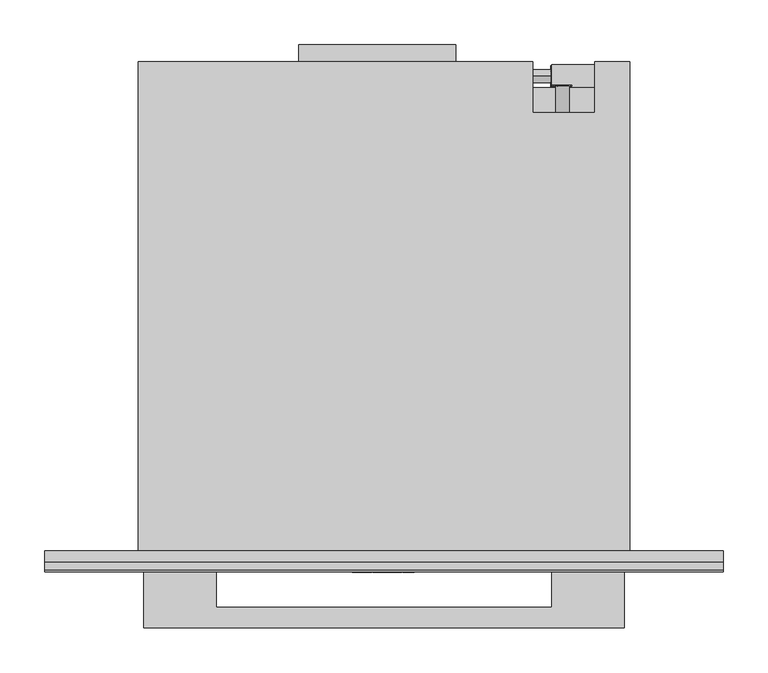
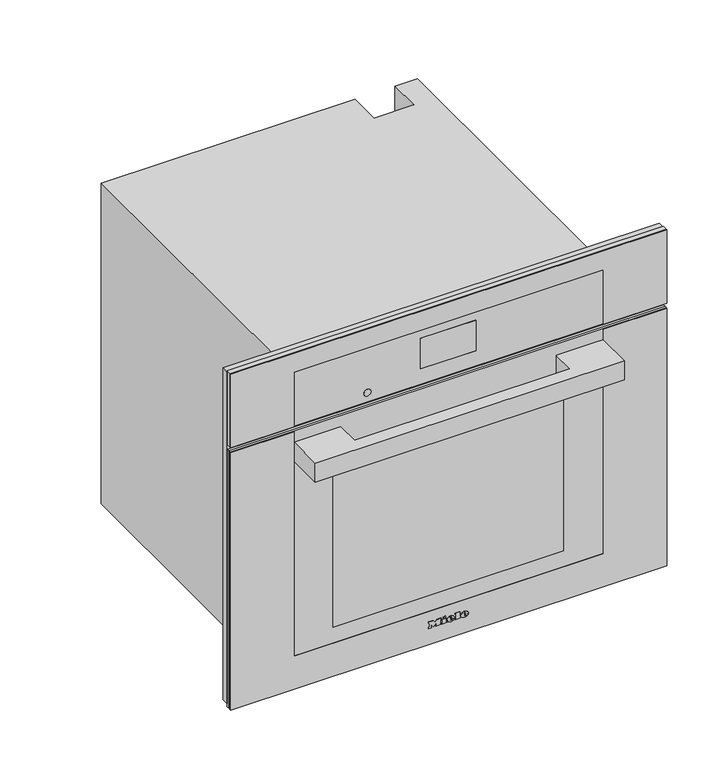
"""IFC4 building model written with IfcOpenShell, lengths in millimetres: proxy geometry, 11875850_USA_DGC7585_EDST-CLST : 23758543_USA_11875850_DGC7585_EDST-CLST."""

import ifcopenshell
import ifcopenshell.guid

model = None  # the IFC model being written
_history = None  # IfcOwnerHistory: only IFC2X3 demands one
_inside = {}  # id of a spatial element -> (the spatial element, [elements in it])
_under = {}  # id of a project, library or spatial element -> (it, [spatial elements below it])
_declared = {}  # id of a project -> (the project, [libraries it declares])
_typed = {}  # id of a type object -> (the type object, [elements of that type])
_made_of = {}  # id of a material, layer set ... -> (it, [elements and type objects made of it])


def new_model(schema):
    """Start an empty IFC model of exactly this schema.

    Asked for "IFC4X3", IfcOpenShell would pick the latest addendum, in which some entities
    have other attributes; the version numbers below select the first issue.
    IFC2X3 requires an IfcOwnerHistory on every rooted entity: one is made here for all.
    """
    global model, _history
    if schema == "IFC4X3":
        model = ifcopenshell.file(schema_version=(4, 3, 0, 0))
    else:
        model = ifcopenshell.file(schema=schema)
    _inside.clear()
    _under.clear()
    _declared.clear()
    _typed.clear()
    _made_of.clear()
    _history = None
    if model.schema == "IFC2X3":
        org = make("IfcOrganization", Name="unknown")
        user = make(
            "IfcPersonAndOrganization",
            ThePerson=make("IfcPerson", FamilyName="unknown"),
            TheOrganization=org,
        )
        app = make(
            "IfcApplication",
            ApplicationDeveloper=org,
            Version="unknown",
            ApplicationFullName="unknown",
            ApplicationIdentifier="unknown",
        )
        _history = make(
            "IfcOwnerHistory",
            OwningUser=user,
            OwningApplication=app,
            ChangeAction="ADDED",
            CreationDate=0,
        )
    return model


def make(cls, **values):
    """One entity of the class cls with the attributes given. An attribute that is None is left unset."""
    return model.create_entity(
        cls, **{name: value for name, value in values.items() if value is not None}
    )


def rooted(cls, **values):
    """An entity with a GlobalId (a new one), such as an element, a storey or a relation."""
    return make(cls, GlobalId=ifcopenshell.guid.new(), OwnerHistory=_history, **values)


def si_unit(unit_type, name, prefix=None):
    """IfcSIUnit, for example si_unit("LENGTHUNIT", "METRE", prefix="MILLI")."""
    return make("IfcSIUnit", UnitType=unit_type, Prefix=prefix, Name=name)


def assignment(units):
    """IfcUnitAssignment: the units of a project."""
    return None if units is None else make("IfcUnitAssignment", Units=units)


def point(xyz):
    """IfcCartesianPoint."""
    return None if xyz is None else make("IfcCartesianPoint", Coordinates=xyz)


def direction(xyz):
    """IfcDirection."""
    return None if xyz is None else make("IfcDirection", DirectionRatios=xyz)


def frame(location, z_axis=None, x_axis=None):
    """IfcAxis2Placement3D, a coordinate frame: its origin and axes. An axis left out is left unset."""
    return make(
        "IfcAxis2Placement3D",
        Location=point(location),
        Axis=direction(z_axis),
        RefDirection=direction(x_axis),
    )


def frame_2d(location, x_axis=None):
    """IfcAxis2Placement2D, a coordinate frame in the plane: its origin and x axis."""
    return make(
        "IfcAxis2Placement2D", Location=point(location), RefDirection=direction(x_axis)
    )


def origin():
    """The frame at (0, 0, 0) with its axes left unset."""
    return frame((0.0, 0.0, 0.0))


def place(relative_to, where):
    """IfcLocalPlacement: puts the frame where relative to a parent placement (None: the world)."""
    return make(
        "IfcLocalPlacement", PlacementRelTo=relative_to, RelativePlacement=where
    )


def context(
    kind, dimensions, precision=None, world=None, true_north=None, identifier=None
):
    """IfcGeometricRepresentationContext, for example the 3D "Model" context."""
    return make(
        "IfcGeometricRepresentationContext",
        ContextIdentifier=identifier,
        ContextType=kind,
        CoordinateSpaceDimension=dimensions,
        Precision=precision,
        WorldCoordinateSystem=world,
        TrueNorth=true_north,
    )


def project(units=None, contexts=None):
    """IfcProject with its units and contexts."""
    return rooted(
        "IfcProject",
        Name="project",
        RepresentationContexts=contexts,
        UnitsInContext=assignment(units),
    )


def spatial(cls, under=None, at=None, **own):
    """A site, building, storey or space (cls), placed at a placement, below another one or the project."""
    s = rooted(cls, ObjectPlacement=at, **own)
    if under is not None:
        _under.setdefault(under.id(), (under, []))[1].append(s)
    return s


def polyline(points):
    """IfcPolyline through the points."""
    return make("IfcPolyline", Points=[point(p) for p in points])


def circle_curve(where, radius):
    """IfcCircle in the frame where."""
    return make("IfcCircle", Position=where, Radius=radius)


def ellipse_curve(where, semi_axis1, semi_axis2):
    """IfcEllipse in the frame where."""
    return make(
        "IfcEllipse", Position=where, SemiAxis1=semi_axis1, SemiAxis2=semi_axis2
    )


def trimmed(basis, trim1, trim2, sense, master):
    """IfcTrimmedCurve: the piece of a basis curve between two trims."""
    return make(
        "IfcTrimmedCurve",
        BasisCurve=basis,
        Trim1=trim1,
        Trim2=trim2,
        SenseAgreement=sense,
        MasterRepresentation=master,
    )


def segment(curve, same_sense, transition):
    """IfcCompositeCurveSegment."""
    return make(
        "IfcCompositeCurveSegment",
        Transition=transition,
        SameSense=same_sense,
        ParentCurve=curve,
    )


def composite_curve(segments, self_intersect=None):
    """IfcCompositeCurve: segments joined end to end."""
    return make("IfcCompositeCurve", Segments=segments, SelfIntersect=self_intersect)


def outline(outer, holes=None, kind="AREA"):
    """IfcArbitraryClosedProfileDef: a profile drawn as a closed curve; with holes, ...WithVoids."""
    if holes is None:
        return make("IfcArbitraryClosedProfileDef", ProfileType=kind, OuterCurve=outer)
    return make(
        "IfcArbitraryProfileDefWithVoids",
        ProfileType=kind,
        OuterCurve=outer,
        InnerCurves=holes,
    )


def extrude(swept, where, along, depth):
    """IfcExtrudedAreaSolid: the profile swept, set in the frame where, extruded along a direction by depth."""
    return make(
        "IfcExtrudedAreaSolid",
        SweptArea=swept,
        Position=where,
        ExtrudedDirection=direction(along),
        Depth=depth,
    )


def faces_of(points, faces, orient=None, outer=None):
    """IfcFace entities. A face is a list of loops; a loop is a list of indices into points, from 0.

    orient and outer hold one flag for each loop. By default every Orientation is true, the
    first loop of a face is its IfcFaceOuterBound and the others are IfcFaceBound.
    """
    made = []
    for i, loops in enumerate(faces):
        bounds = []
        for j, loop in enumerate(loops):
            is_outer = j == 0 if outer is None else outer[i][j]
            bounds.append(
                make(
                    "IfcFaceOuterBound" if is_outer else "IfcFaceBound",
                    Bound=make("IfcPolyLoop", Polygon=[points[k] for k in loop]),
                    Orientation=True if orient is None else orient[i][j],
                )
            )
        made.append(make("IfcFace", Bounds=bounds))
    return made


def faceted_brep(points, faces, orient=None, outer=None, voids=None):
    """IfcFacetedBrep: a solid bounded by flat faces; with voids (closed shells), ...WithVoids."""
    shared = [point(p) for p in points]
    hull = make("IfcClosedShell", CfsFaces=faces_of(shared, faces, orient, outer))
    if voids is None:
        return make("IfcFacetedBrep", Outer=hull)
    return make(
        "IfcFacetedBrepWithVoids",
        Outer=hull,
        Voids=[
            make(cls, CfsFaces=faces_of(shared, fs, o, b)) for cls, fs, o, b in voids
        ],
    )


def shape(context_of_items, identifier, shape_type, items):
    """IfcShapeRepresentation: the items that make up one representation, for example the "Body"."""
    return make(
        "IfcShapeRepresentation",
        ContextOfItems=context_of_items,
        RepresentationIdentifier=identifier,
        RepresentationType=shape_type,
        Items=items,
    )


def source(mapping_origin, context_of_items, identifier, shape_type, items):
    """IfcRepresentationMap: a shape defined once, which mapped items show again and again."""
    return make(
        "IfcRepresentationMap",
        MappingOrigin=mapping_origin,
        MappedRepresentation=shape(context_of_items, identifier, shape_type, items),
    )


def transform(
    local_origin,
    x_axis=None,
    y_axis=None,
    z_axis=None,
    scale=None,
    scale2=None,
    scale3=None,
    uniform=True,
):
    """IfcCartesianTransformationOperator3D, or its non-uniform kind. x_axis, y_axis, z_axis: its Axis1, 2, 3."""
    if uniform:
        return make(
            "IfcCartesianTransformationOperator3D",
            Axis1=direction(x_axis),
            Axis2=direction(y_axis),
            LocalOrigin=point(local_origin),
            Scale=scale,
            Axis3=direction(z_axis),
        )
    return make(
        "IfcCartesianTransformationOperator3DnonUniform",
        Axis1=direction(x_axis),
        Axis2=direction(y_axis),
        LocalOrigin=point(local_origin),
        Scale=scale,
        Axis3=direction(z_axis),
        Scale2=scale2,
        Scale3=scale3,
    )


def mapped(mapping_source, mapping_target):
    """IfcMappedItem: shows the shape of a source again, moved by a transform."""
    return make(
        "IfcMappedItem", MappingSource=mapping_source, MappingTarget=mapping_target
    )


def made_of(thing, what):
    """Note that an element or type object is made of a material, layer set ...; save() writes the relation."""
    if what is not None:
        _made_of.setdefault(what.id(), (what, []))[1].append(thing)
    return thing


def element(
    cls,
    number,
    at=None,
    inside=None,
    cuts=None,
    type_object=None,
    material=None,
    context=None,
    identifier="Body",
    shape_type=None,
    held_by="IfcProductDefinitionShape",
    body=None,
    shapes=None,
    **own,
):
    """One element of the class cls, such as IfcWall. Its Tag is "e" and its number.

    at: its placement. inside: the storey or other place that contains it. cuts: it is an
    opening in that element (IfcRelVoidsElement). A single representation is given by context,
    identifier, shape_type and body (its items); several are given by shapes. held_by: the class
    of the entity that holds the representations. save() writes the other relations.
    """
    e = rooted(cls, Tag="e%d" % number, ObjectPlacement=at, **own)
    if body is not None:
        shapes = [shape(context, identifier, shape_type, body)]
    if shapes is not None:
        e.Representation = make(held_by, Representations=shapes)
    if inside is not None:
        _inside.setdefault(inside.id(), (inside, []))[1].append(e)
    if cuts is not None:
        rooted(
            "IfcRelVoidsElement", RelatingBuildingElement=cuts, RelatedOpeningElement=e
        )
    if type_object is not None:
        _typed.setdefault(type_object.id(), (type_object, []))[1].append(e)
    return made_of(e, material)


def aggregate(whole, parts):
    """IfcRelAggregates: a whole, such as a stair, and the parts it consists of."""
    return rooted("IfcRelAggregates", RelatingObject=whole, RelatedObjects=parts)


def save(model, path):
    """Write the relations noted so far, then the file.

    IfcRelAggregates (storeys below a building ...), IfcRelContainedInSpatialStructure (elements
    in a storey), IfcRelDefinesByType, IfcRelAssociatesMaterial and IfcRelDeclares: one each for
    every whole, place, type object, material and project.
    """
    for whole, parts in _under.values():
        aggregate(whole, parts)
    for where, things in _inside.values():
        rooted(
            "IfcRelContainedInSpatialStructure",
            RelatedElements=things,
            RelatingStructure=where,
        )
    for kind, things in _typed.values():
        rooted("IfcRelDefinesByType", RelatedObjects=things, RelatingType=kind)
    for what, things in _made_of.values():
        rooted("IfcRelAssociatesMaterial", RelatedObjects=things, RelatingMaterial=what)
    for by, libraries in _declared.values():
        rooted("IfcRelDeclares", RelatingContext=by, RelatedDefinitions=libraries)
    model.write(path)


def plane_surface(at):
    """IfcPlane: the flat surface through the origin of the frame at, square to its z axis."""
    return make("IfcPlane", Position=at)


def cylinder_surface(at, radius):
    """IfcCylindricalSurface: all points at the distance radius from the z axis of the frame at."""
    return make("IfcCylindricalSurface", Position=at, Radius=radius)


def revolved_surface(curve, axis_point, axis_direction):
    """IfcSurfaceOfRevolution: the curve turned about the line through axis_point along axis_direction."""
    return make(
        "IfcSurfaceOfRevolution",
        SweptCurve=make("IfcArbitraryOpenProfileDef", ProfileType="CURVE", Curve=curve),
        AxisPosition=make("IfcAxis1Placement", Location=point(axis_point), Axis=direction(axis_direction)),
    )


def extruded_surface(curve, direction_of_extrusion, depth):
    """IfcSurfaceOfLinearExtrusion: the curve pushed along a direction by depth."""
    return make(
        "IfcSurfaceOfLinearExtrusion",
        SweptCurve=make("IfcArbitraryOpenProfileDef", ProfileType="CURVE", Curve=curve),
        ExtrudedDirection=direction(direction_of_extrusion),
        Depth=depth,
    )


def advanced_brep(points, edges, surfaces, faces):
    """IfcAdvancedBrep: a solid bounded by faces that lie on surfaces and meet in shared edges.

    An edge is (start, end): straight between two places in points (the first is 0);
    or (start, end, curve); or (start, end, curve, False) where it runs against its curve.
    A face is (place in surfaces, loops), or (place, loops, False) where it looks against
    its surface's normal. A loop lists edges by number (the first is 1), with a minus sign
    where the edge is run from its end to its start. The first loop is the outer one.
    """
    corners = [point(p) for p in points]
    vertices = [make("IfcVertexPoint", VertexGeometry=c) for c in corners]
    made = []
    for start, end, *more in edges:
        made.append(
            make(
                "IfcEdgeCurve",
                EdgeStart=vertices[start],
                EdgeEnd=vertices[end],
                EdgeGeometry=more[0] if more else make("IfcPolyline", Points=[corners[start], corners[end]]),
                SameSense=more[1] if len(more) > 1 else True,
            )
        )
    hull = []
    for where, loops, *sense in faces:
        bounds = []
        for j, loop in enumerate(loops):
            ring = [make("IfcOrientedEdge", EdgeElement=made[abs(k) - 1], Orientation=k > 0) for k in loop]
            bounds.append(
                make(
                    "IfcFaceOuterBound" if j == 0 else "IfcFaceBound",
                    Bound=make("IfcEdgeLoop", EdgeList=ring),
                    Orientation=True,
                )
            )
        hull.append(make("IfcAdvancedFace", Bounds=bounds, FaceSurface=surfaces[where], SameSense=sense[0] if sense else True))
    return make("IfcAdvancedBrep", Outer=make("IfcClosedShell", CfsFaces=hull))


def specialty_equipment_f7db8bf3(model_context):
    return source(origin(), model_context, "Body", "SolidModel", [
        faceted_brep([(378.5, -13.0, 617.0), (-378.5, -13.0, 617.0), (-378.5, -13.0, 9.0), (-272.5, -13.0, 9.0), (-272.5, -13.0, 485.0), (272.5, -13.0, 485.0), (272.5, -13.0, 9.0), (378.5, -13.0, 9.0), (378.5, 0.0, 617.0), (378.5, 0.0, 9.0), (-378.5, 0.0, 9.0), (-378.5, 0.0, 617.0), (231.0, 0.0, 61.0), (231.0, 0.0, 411.0), (-231.0, 0.0, 411.0), (-231.0, 0.0, 61.0), (272.5, -5.0, 9.0), (-272.5, -5.0, 9.0), (-272.5, -5.0, 485.0), (272.5, -5.0, 485.0), (231.0, -5.0, 411.0), (231.0, -5.0, 61.0), (-231.0, -5.0, 61.0), (-231.0, -5.0, 411.0)], [[[0, 1, 2, 3, 4, 5, 6, 7]], [[8, 9, 10, 11], [12, 13, 14, 15]], [[1, 0, 8, 11]], [[2, 1, 11, 10]], [[10, 9, 7, 6, 16, 17, 3, 2]], [[0, 7, 9, 8]], [[18, 19, 5, 4]], [[18, 4, 3, 17]], [[5, 19, 16, 6]], [[19, 18, 17, 16], [20, 21, 22, 23]], [[20, 13, 12, 21]], [[21, 12, 15, 22]], [[22, 15, 14, 23]], [[13, 20, 23, 14]]]),
        extrude(outline(polyline([(-95.0, 565.0), (80.0, 565.0), (80.0, 546.0), (-95.0, 546.0), (-95.0, 565.0)])), frame((0.0, 0.0, 311.0), z_axis=(0.0, 0.0, 1.0), x_axis=(1.0, 0.0, 0.0)), (0.0, 0.0, 1.0), 1.0),
        extrude(outline(polyline([(218.8383288, 522.0), (225.1236409, 522.0), (225.1236409, 511.9492425), (223.8571792, 511.9492425), (223.8571792, 520.7409796), (218.8383288, 520.7409796), (218.8383288, 522.0)])), frame((0.0, 0.0, 272.0), z_axis=(0.0, 0.0, 1.0), x_axis=(1.0, 0.0, 0.0)), (0.0, 0.0, 1.0), 1.0),
        extrude(outline(polyline([(227.0, 522.0), (234.3797826, 522.0), (234.3797826, 511.9503529), (227.15422, 511.9503529), (227.15422, 513.220938), (233.1355215, 513.220938), (233.1355215, 516.1975645), (227.4863097, 516.1975645), (227.4863097, 517.449242), (233.1355215, 517.449242), (233.1355215, 520.7448633), (227.0, 520.7448633), (227.0, 522.0)])), frame((0.0, 0.0, 272.0), z_axis=(0.0, 0.0, 1.0), x_axis=(1.0, 0.0, 0.0)), (0.0, 0.0, 1.0), 1.0),
        extrude(outline(polyline([(519.6429442, 19.9943805), (518.3113439, 19.9943805), (522.3179353, 30.0448542), (523.3959224, 30.0448542), (527.4062166, 20.0), (526.0536081, 20.0), (524.9175759, 23.121223), (520.7810217, 23.121223), (519.6429442, 19.9943805)]), holes=[polyline([(521.2587176, 24.4336815), (524.43988, 24.4336815), (522.8492988, 28.8037675), (521.2587176, 24.4336815)])]), frame((186.0, 0.0, 0.0), z_axis=(1.0, 0.0, 0.0), x_axis=(0.0, 1.0, 0.0)), (0.0, 0.0, 1.0), 1.0),
        extrude(outline(polyline([(530.5321321, 20.0), (527.8018067, 30.0490432), (529.0968223, 30.0490432), (531.1602937, 21.4201336), (533.686646, 30.0556718), (535.5455392, 30.0556718), (538.1024658, 21.4662572), (540.1658975, 30.0556718), (541.4634812, 30.0556718), (538.7128319, 20.0), (537.3799359, 20.0), (534.6350025, 28.8403806), (532.048723, 20.0), (530.5321321, 20.0)])), frame((186.0, 0.0, 0.0), z_axis=(1.0, 0.0, 0.0), x_axis=(0.0, 1.0, 0.0)), (0.0, 0.0, 1.0), 1.0),
        extrude(outline(composite_curve([segment(trimmed(circle_curve(frame_2d((227.0, 517.0)), 7.5), [point((219.5, 517.0))], [point((234.5, 517.0))], False, "CARTESIAN"), True, "CONTINUOUS"), segment(trimmed(circle_curve(frame_2d((227.0, 517.0)), 7.5), [point((234.5, 517.0))], [point((219.5, 517.0))], False, "CARTESIAN"), True, "CONTINUOUS")], self_intersect=False)), frame((0.0, 0.0, 273.0), z_axis=(0.0, 0.0, 1.0), x_axis=(1.0, 0.0, 0.0)), (0.0, 0.0, 1.0), 30.0),
        extrude(outline(polyline([(266.0, 517.0), (187.0, 517.0), (187.0, 543.0), (266.0, 543.0), (266.0, 517.0)])), frame((0.0, 0.0, 303.0), z_axis=(0.0, 0.0, 1.0), x_axis=(1.0, 0.0, 0.0)), (0.0, 0.0, 1.0), 111.0),
        extrude(outline(polyline([(523.0, 196.9217896), (523.0, 198.4267862), (533.0435673, 201.1942402), (533.0435673, 199.9014806), (524.4295103, 197.7797951), (533.0470645, 195.3087512), (533.0470645, 193.4373937), (524.4121052, 190.9191482), (533.0472266, 188.8443938), (533.0472266, 187.5376524), (523.0, 190.2769667), (523.0, 191.6257455), (531.8347238, 194.3884733), (523.0, 196.9217896)])), frame((0.0, 519.0, 0.0), z_axis=(0.0, 1.0, 0.0), x_axis=(0.0, 0.0, 1.0)), (0.0, 0.0, 1.0), 1.0),
        extrude(outline(polyline([(533.0468463, 209.521488), (533.0468463, 208.2566067), (528.129594, 208.2566067), (533.0474898, 203.1074328), (533.0474898, 201.3597489), (528.9313111, 205.6695027), (523.0, 201.1858157), (523.0, 202.7358731), (528.0700777, 206.5685235), (526.4282746, 208.2823622), (523.0, 208.2823622), (523.0, 209.521488), (533.0468463, 209.521488)])), frame((0.0, 519.0, 0.0), z_axis=(0.0, 1.0, 0.0), x_axis=(0.0, 0.0, 1.0)), (0.0, 0.0, 1.0), 1.0),
        extrude(outline(composite_curve([segment(trimmed(circle_curve(frame_2d((528.0, 199.0)), 7.5), [point((528.0, 206.5))], [point((528.0, 191.5))], False, "CARTESIAN"), True, "CONTINUOUS"), segment(trimmed(circle_curve(frame_2d((528.0, 199.0)), 7.5), [point((528.0, 191.5))], [point((528.0, 206.5))], False, "CARTESIAN"), True, "CONTINUOUS")], self_intersect=False)), frame((0.0, 489.0, 0.0), z_axis=(0.0, 1.0, 0.0), x_axis=(0.0, 0.0, 1.0)), (0.0, 0.0, 1.0), 30.0),
        extrude(outline(composite_curve([segment(trimmed(circle_curve(frame_2d((530.0, 25.0)), 7.5), [point((530.0, 17.5))], [point((530.0, 32.5))], False, "CARTESIAN"), True, "CONTINUOUS"), segment(trimmed(circle_curve(frame_2d((530.0, 25.0)), 7.5), [point((530.0, 32.5))], [point((530.0, 17.5))], False, "CARTESIAN"), True, "CONTINUOUS")], self_intersect=False)), frame((166.0, 0.0, 0.0), z_axis=(1.0, 0.0, 0.0), x_axis=(0.0, 1.0, 0.0)), (0.0, 0.0, 1.0), 20.0),
        faceted_brep([(-274.0, 546.0, 0.0), (-274.0, 546.0, 588.0), (166.0, 546.0, 588.0), (166.0, 546.0, 0.0), (235.0, 546.0, 588.0), (274.0, 546.0, 588.0), (274.0, 546.0, 478.0), (235.0, 546.0, 478.0), (274.0, 0.0, 588.0), (-274.0, 0.0, 588.0), (-274.0, 0.0, 0.0), (274.0, 0.0, 0.0), (231.0, 0.0, 411.0), (231.0, 0.0, 61.0), (-231.0, 0.0, 61.0), (-231.0, 0.0, 411.0), (235.0, 489.0, 588.0), (166.0, 489.0, 588.0), (166.0, 517.0, 0.0), (274.0, 517.0, 0.0), (274.0, 517.0, 478.0), (231.0, 411.0, 411.0), (-231.0, 411.0, 411.0), (-231.0, 411.0, 61.0), (231.0, 411.0, 61.0), (235.0, 489.0, 477.0), (166.0, 489.0, 477.0), (166.0, 517.0, 477.0), (235.0, 517.0, 477.0), (235.0, 517.0, 478.0)], [[[0, 1, 2, 3]], [[4, 5, 6, 7]], [[8, 9, 10, 11], [12, 13, 14, 15]], [[9, 8, 5, 4, 16, 17, 2, 1]], [[1, 0, 10, 9]], [[11, 10, 0, 3, 18, 19]], [[8, 11, 19, 20, 6, 5]], [[21, 22, 23, 24]], [[21, 24, 13, 12]], [[24, 23, 14, 13]], [[23, 22, 15, 14]], [[22, 21, 12, 15]], [[16, 25, 26, 17]], [[17, 26, 27, 18, 3, 2]], [[26, 25, 28, 27]], [[25, 16, 4, 7, 29, 28]], [[29, 20, 19, 18, 27, 28]], [[20, 29, 7, 6]]]),
        advanced_brep(
        [(26.2998, -24.3, 36.7018), (26.2998, -24.3, 37.8532), (33.9264, -24.3, 37.8532), (20.6568, -24.3, 37.8532), (23.7918, -24.3, 34.0), (33.7326, -24.3, 36.7018), (30.2898, -24.3, 36.7018), (27.5766, -24.3, 35.425), (26.2998, -24.3, 39.3124), (26.2998, -24.3, 40.555), (28.2492, -24.3, 40.555), (28.2492, -24.3, 39.3124), (26.2998, -23.3, 36.7018), (27.5766, -23.3, 35.425), (30.2898, -23.3, 36.7018), (33.7326, -23.3, 36.7018), (23.7918, -23.3, 34.0), (20.6568, -23.3, 37.8532), (33.9264, -23.3, 37.8532), (26.2998, -23.3, 37.8532), (26.2998, -23.3, 39.3124), (28.2492, -23.3, 39.3124), (28.2492, -23.3, 40.555), (26.2998, -23.3, 40.555)],
        [
            (0, 1),
            (1, 2),
            (2, 3, ellipse_curve(frame((27.2916, -24.3, 37.8532), z_axis=(0.0, -1.0, 0.0), x_axis=(-1.0, 0.0, 0.0)), 6.6348, 5.4834)),
            (3, 4, circle_curve(frame((25.0686622, -24.3, 38.2408), z_axis=(0.0, -1.0, 0.0), x_axis=(0.0, 0.0, -1.0)), 4.4288556)),
            (4, 5, circle_curve(frame((27.1587808, -24.3, 41.2504), z_axis=(0.0, -1.0, 0.0), x_axis=(0.0, 0.0, -1.0)), 7.9940516)),
            (5, 6),
            (6, 7, circle_curve(frame((28.1338588, -24.3, 37.762), z_axis=(0.0, 1.0, 0.0), x_axis=(0.0, 0.0, -1.0)), 2.4025208)),
            (7, 0, circle_curve(frame((27.5766, -24.3, 36.7018), z_axis=(0.0, 1.0, 0.0), x_axis=(0.0, 0.0, -1.0)), 1.2768)),
            (8, 9),
            (9, 10, circle_curve(frame((27.2745, -24.3, 40.555), z_axis=(0.0, 1.0, 0.0), x_axis=(0.0, 0.0, -1.0)), 0.9747)),
            (10, 11),
            (11, 8),
            (12, 13, circle_curve(frame((27.5766, -23.3, 36.7018), z_axis=(0.0, -1.0, 0.0), x_axis=(0.0, 0.0, -1.0)), 1.2768)),
            (13, 14, circle_curve(frame((28.1338588, -23.3, 37.762), z_axis=(0.0, -1.0, 0.0), x_axis=(0.0, 0.0, -1.0)), 2.4025208)),
            (14, 15),
            (15, 16, circle_curve(frame((27.1587808, -23.3, 41.2504), z_axis=(0.0, 1.0, 0.0), x_axis=(0.0, 0.0, -1.0)), 7.9940516)),
            (16, 17, circle_curve(frame((25.0686622, -23.3, 38.2408), z_axis=(0.0, 1.0, 0.0), x_axis=(0.0, 0.0, -1.0)), 4.4288556)),
            (17, 18, ellipse_curve(frame((27.2916, -23.3, 37.8532), z_axis=(0.0, 1.0, 0.0), x_axis=(-1.0, 0.0, 0.0)), 6.6348, 5.4834)),
            (18, 19),
            (19, 12),
            (20, 21),
            (21, 22),
            (22, 23, circle_curve(frame((27.2745, -23.3, 40.555), z_axis=(0.0, -1.0, 0.0), x_axis=(0.0, 0.0, -1.0)), 0.9747)),
            (23, 20),
            (0, 12),
            (19, 1),
            (18, 2),
            (5, 15),
            (14, 6),
            (17, 3),
            (13, 7),
            (16, 4),
            (8, 20),
            (23, 9),
            (22, 10),
            (21, 11),
        ],
        [
            plane_surface(frame((26.2998, -24.3, 37.8532), z_axis=(0.0, -1.0, 0.0), x_axis=(0.0, 0.0, 1.0))),
            plane_surface(frame((26.2998, -23.3, 37.8532), z_axis=(0.0, 1.0, 0.0), x_axis=(0.0, 0.0, -1.0))),
            plane_surface(frame((26.2998, -24.3, 36.7018), z_axis=(1.0, 0.0, 0.0), x_axis=(0.0, 1.0, 0.0))),
            plane_surface(frame((26.2998, -24.3, 37.8532), z_axis=(0.0, 0.0, -1.0), x_axis=(0.0, 1.0, 0.0))),
            plane_surface(frame((33.7326, -24.3, 36.7018), z_axis=(0.0, 0.0, 1.0), x_axis=(0.0, 1.0, 0.0))),
            extruded_surface(trimmed(ellipse_curve(frame((27.2916, -22.3, 37.8532), z_axis=(0.0, -1.0, 0.0), x_axis=(-1.0, 0.0, 0.0)), 6.6348, 5.4834), [point((33.9264, -22.3, 37.8532))], [point((20.6568, -22.3, 37.8532))], True, "CARTESIAN"), (0.0, -1.0, 0.0), 1.0),
            revolved_surface(polyline([(28.1338588, -23.3, 35.3594792), (28.1338588, -24.3, 35.3594792)]), (28.1338588, -23.3, 37.762), (0.0, 1.0, 0.0)),
            revolved_surface(polyline([(27.5766, -23.3, 35.425), (27.5766, -24.3, 35.425)]), (27.5766, -23.3, 36.7018), (0.0, 1.0, 0.0)),
            cylinder_surface(frame((25.0686622, -23.3, 38.2408), z_axis=(0.0, -1.0, 0.0), x_axis=(0.0, 0.0, -1.0)), 4.4288556),
            cylinder_surface(frame((27.1587808, -23.3, 41.2504), z_axis=(0.0, -1.0, 0.0), x_axis=(0.0, 0.0, -1.0)), 7.9940516),
            plane_surface(frame((26.2998, -24.3, 39.3124), z_axis=(1.0, 0.0, 0.0), x_axis=(0.0, 1.0, 0.0))),
            revolved_surface(polyline([(27.2745, -23.3, 39.5803), (27.2745, -24.3, 39.5803)]), (27.2745, -23.3, 40.555), (0.0, 1.0, 0.0)),
            plane_surface(frame((28.2492, -24.3, 40.555), z_axis=(-1.0, 0.0, 0.0), x_axis=(0.0, 1.0, 0.0))),
            plane_surface(frame((28.2492, -24.3, 39.3124), z_axis=(0.0, 0.0, 1.0), x_axis=(0.0, 1.0, 0.0))),
        ],
        [
            (0, [[1, 2, 3, 4, 5, 6, 7, 8], [9, 10, 11, 12]]),
            (1, [[13, 14, 15, 16, 17, 18, 19, 20], [21, 22, 23, 24]]),
            (2, [[-1, 25, -20, 26]]),
            (3, [[-2, -26, -19, 27]]),
            (4, [[-6, 28, -15, 29]]),
            (5, [[-3, -27, -18, 30]]),
            (6, [[-7, -29, -14, 31]]),
            (7, [[-8, -31, -13, -25]]),
            (8, [[-4, -30, -17, 32]]),
            (9, [[-5, -32, -16, -28]]),
            (10, [[-9, 33, -24, 34]]),
            (11, [[-10, -34, -23, 35]]),
            (12, [[-11, -35, -22, 36]]),
            (13, [[-12, -36, -21, -33]]),
        ],
    ),
        advanced_brep(
        [(2.508, -24.3, 36.7018), (2.508, -24.3, 37.8532), (10.1346, -24.3, 37.8532), (-3.135, -24.3, 37.8532), (0.0, -24.3, 34.0), (9.9408, -24.3, 36.7018), (6.498, -24.3, 36.7018), (3.7848, -24.3, 35.425), (2.508, -24.3, 39.3124), (2.508, -24.3, 40.555), (4.4574, -24.3, 40.555), (4.4574, -24.3, 39.3124), (2.508, -23.3, 36.7018), (3.7848, -23.3, 35.425), (6.498, -23.3, 36.7018), (9.9408, -23.3, 36.7018), (0.0, -23.3, 34.0), (-3.135, -23.3, 37.8532), (10.1346, -23.3, 37.8532), (2.508, -23.3, 37.8532), (2.508, -23.3, 39.3124), (4.4574, -23.3, 39.3124), (4.4574, -23.3, 40.555), (2.508, -23.3, 40.555)],
        [
            (0, 1),
            (1, 2),
            (2, 3, ellipse_curve(frame((3.4998, -24.3, 37.8532), z_axis=(0.0, -1.0, 0.0), x_axis=(-1.0, 0.0, 0.0)), 6.6348, 5.4834)),
            (3, 4, circle_curve(frame((1.2768622, -24.3, 38.2408), z_axis=(0.0, -1.0, 0.0), x_axis=(0.0, 0.0, -1.0)), 4.4288556)),
            (4, 5, circle_curve(frame((3.3669808, -24.3, 41.2504), z_axis=(0.0, -1.0, 0.0), x_axis=(0.0, 0.0, -1.0)), 7.9940516)),
            (5, 6),
            (6, 7, circle_curve(frame((4.3420588, -24.3, 37.762), z_axis=(0.0, 1.0, 0.0), x_axis=(0.0, 0.0, -1.0)), 2.4025208)),
            (7, 0, circle_curve(frame((3.7848, -24.3, 36.7018), z_axis=(0.0, 1.0, 0.0), x_axis=(0.0, 0.0, -1.0)), 1.2768)),
            (8, 9),
            (9, 10, circle_curve(frame((3.4827, -24.3, 40.555), z_axis=(0.0, 1.0, 0.0), x_axis=(0.0, 0.0, -1.0)), 0.9747)),
            (10, 11),
            (11, 8),
            (12, 13, circle_curve(frame((3.7848, -23.3, 36.7018), z_axis=(0.0, -1.0, 0.0), x_axis=(0.0, 0.0, -1.0)), 1.2768)),
            (13, 14, circle_curve(frame((4.3420588, -23.3, 37.762), z_axis=(0.0, -1.0, 0.0), x_axis=(0.0, 0.0, -1.0)), 2.4025208)),
            (14, 15),
            (15, 16, circle_curve(frame((3.3669808, -23.3, 41.2504), z_axis=(0.0, 1.0, 0.0), x_axis=(0.0, 0.0, -1.0)), 7.9940516)),
            (16, 17, circle_curve(frame((1.2768622, -23.3, 38.2408), z_axis=(0.0, 1.0, 0.0), x_axis=(0.0, 0.0, -1.0)), 4.4288556)),
            (17, 18, ellipse_curve(frame((3.4998, -23.3, 37.8532), z_axis=(0.0, 1.0, 0.0), x_axis=(-1.0, 0.0, 0.0)), 6.6348, 5.4834)),
            (18, 19),
            (19, 12),
            (20, 21),
            (21, 22),
            (22, 23, circle_curve(frame((3.4827, -23.3, 40.555), z_axis=(0.0, -1.0, 0.0), x_axis=(0.0, 0.0, -1.0)), 0.9747)),
            (23, 20),
            (0, 12),
            (19, 1),
            (18, 2),
            (5, 15),
            (14, 6),
            (17, 3),
            (13, 7),
            (16, 4),
            (8, 20),
            (23, 9),
            (22, 10),
            (21, 11),
        ],
        [
            plane_surface(frame((2.508, -24.3, 37.8532), z_axis=(0.0, -1.0, 0.0), x_axis=(0.0, 0.0, 1.0))),
            plane_surface(frame((2.508, -23.3, 37.8532), z_axis=(0.0, 1.0, 0.0), x_axis=(0.0, 0.0, -1.0))),
            plane_surface(frame((2.508, -24.3, 36.7018), z_axis=(1.0, 0.0, 0.0), x_axis=(0.0, 1.0, 0.0))),
            plane_surface(frame((2.508, -24.3, 37.8532), z_axis=(0.0, 0.0, -1.0), x_axis=(0.0, 1.0, 0.0))),
            plane_surface(frame((9.9408, -24.3, 36.7018), z_axis=(0.0, 0.0, 1.0), x_axis=(0.0, 1.0, 0.0))),
            extruded_surface(trimmed(ellipse_curve(frame((3.4998, -22.3, 37.8532), z_axis=(0.0, -1.0, 0.0), x_axis=(-1.0, 0.0, 0.0)), 6.6348, 5.4834), [point((10.1346, -22.3, 37.8532))], [point((-3.135, -22.3, 37.8532))], True, "CARTESIAN"), (0.0, -1.0, 0.0), 1.0),
            revolved_surface(polyline([(4.3420588, -23.3, 35.3594792), (4.3420588, -24.3, 35.3594792)]), (4.3420588, -23.3, 37.762), (0.0, 1.0, 0.0)),
            revolved_surface(polyline([(3.7848, -23.3, 35.425), (3.7848, -24.3, 35.425)]), (3.7848, -23.3, 36.7018), (0.0, 1.0, 0.0)),
            cylinder_surface(frame((1.2768622, -23.3, 38.2408), z_axis=(0.0, -1.0, 0.0), x_axis=(0.0, 0.0, -1.0)), 4.4288556),
            cylinder_surface(frame((3.3669808, -23.3, 41.2504), z_axis=(0.0, -1.0, 0.0), x_axis=(0.0, 0.0, -1.0)), 7.9940516),
            plane_surface(frame((2.508, -24.3, 39.3124), z_axis=(1.0, 0.0, 0.0), x_axis=(0.0, 1.0, 0.0))),
            revolved_surface(polyline([(3.4827, -23.3, 39.5803), (3.4827, -24.3, 39.5803)]), (3.4827, -23.3, 40.555), (0.0, 1.0, 0.0)),
            plane_surface(frame((4.4574, -24.3, 40.555), z_axis=(-1.0, 0.0, 0.0), x_axis=(0.0, 1.0, 0.0))),
            plane_surface(frame((4.4574, -24.3, 39.3124), z_axis=(0.0, 0.0, 1.0), x_axis=(0.0, 1.0, 0.0))),
        ],
        [
            (0, [[1, 2, 3, 4, 5, 6, 7, 8], [9, 10, 11, 12]]),
            (1, [[13, 14, 15, 16, 17, 18, 19, 20], [21, 22, 23, 24]]),
            (2, [[-1, 25, -20, 26]]),
            (3, [[-2, -26, -19, 27]]),
            (4, [[-6, 28, -15, 29]]),
            (5, [[-3, -27, -18, 30]]),
            (6, [[-7, -29, -14, 31]]),
            (7, [[-8, -31, -13, -25]]),
            (8, [[-4, -30, -17, 32]]),
            (9, [[-5, -32, -16, -28]]),
            (10, [[-9, 33, -24, 34]]),
            (11, [[-10, -34, -23, 35]]),
            (12, [[-11, -35, -22, 36]]),
            (13, [[-12, -36, -21, -33]]),
        ],
    ),
        extrude(outline(polyline([(44.7274, -9.9522), (42.8806, -9.0858), (44.6818, -5.2212), (46.5286, -6.0762), (44.7274, -9.9522)])), frame((0.0, -24.3, 0.0), z_axis=(0.0, 1.0, 0.0), x_axis=(0.0, 0.0, 1.0)), (0.0, 0.0, 1.0), 1.0),
        extrude(outline(polyline([(42.6298, -12.768), (40.5892, -12.768), (40.5892, -11.4114), (35.9152, -11.4114), (35.9152, -12.768), (34.0, -12.768), (34.0, -3.7734), (35.9152, -3.7734), (35.9152, -5.0958), (42.6298, -5.0958), (42.6298, -12.768)])), frame((0.0, -24.3, 0.0), z_axis=(0.0, 1.0, 0.0), x_axis=(0.0, 0.0, 1.0)), (0.0, 0.0, 1.0), 1.0),
        extrude(outline(polyline([(43.5418, 10.773), (43.5418, 12.141), (35.9152, 12.141), (35.9152, 10.773), (34.0, 10.773), (34.0, 20.0184), (35.9152, 20.0184), (35.9152, 18.6162), (45.4, 18.6162), (45.4, 10.773), (43.5418, 10.773)])), frame((0.0, -24.3, 0.0), z_axis=(0.0, 1.0, 0.0), x_axis=(0.0, 0.0, 1.0)), (0.0, 0.0, 1.0), 1.0),
        extrude(outline(polyline([(43.5418, -35.4882), (43.5418, -34.1088), (35.9152, -34.1088), (35.9152, -35.4882), (34.0, -35.4882), (34.0, -30.4722), (35.9152, -30.4722), (35.9152, -31.8402), (40.7429247, -31.8402), (34.0, -26.7444), (40.9402223, -21.6258), (35.9152, -21.6258), (35.9152, -23.028), (34.0, -23.028), (34.0, -13.9308), (35.9152, -13.9308), (35.9152, -15.3786), (43.5418, -15.3786), (43.5418, -13.9308), (45.4, -13.9308), (45.4, -20.8734), (41.125, -24.2022), (45.4, -27.5424), (45.4, -35.4882), (43.5418, -35.4882)])), frame((0.0, -24.3, 0.0), z_axis=(0.0, 1.0, 0.0), x_axis=(0.0, 0.0, 1.0)), (0.0, 0.0, 1.0), 1.0),
        extrude(outline(composite_curve([segment(trimmed(circle_curve(frame_2d((502.0, -140.5745637)), 6.0), [point((502.0, -146.5745637))], [point((502.0, -134.5745637))], False, "CARTESIAN"), True, "CONTINUOUS"), segment(trimmed(circle_curve(frame_2d((502.0, -140.5745637)), 6.0), [point((502.0, -134.5745637))], [point((502.0, -146.5745637))], False, "CARTESIAN"), True, "CONTINUOUS")], self_intersect=False)), frame((0.0, -22.5, 0.0), z_axis=(0.0, 1.0, 0.0), x_axis=(0.0, 0.0, 1.0)), (0.0, 0.0, 1.0), 1.0),
        extrude(outline(polyline([(485.0, -268.5), (585.0, -268.5), (585.0, 268.5), (485.0, 268.5), (485.0, 378.5), (620.0, 378.5), (620.0, -378.5), (485.0, -378.5), (485.0, -268.5)])), frame((0.0, -23.3, 0.0), z_axis=(0.0, 1.0, 0.0), x_axis=(0.0, 0.0, 1.0)), (0.0, 0.0, 1.0), 1.3),
        extrude(outline(polyline([(-48.0, -21.0), (48.0, -21.0), (48.0, -22.0), (-48.0, -22.0), (-48.0, -21.0)])), frame((0.0, 0.0, 513.0), z_axis=(0.0, 0.0, 1.0), x_axis=(1.0, 0.0, 0.0)), (0.0, 0.0, 1.0), 56.0),
        faceted_brep([(378.5, -22.0, 620.0), (-378.5, -22.0, 620.0), (-378.5, -22.0, 485.0), (378.5, -22.0, 485.0), (48.0, -22.0, 569.0), (48.0, -22.0, 513.0), (-48.0, -22.0, 513.0), (-48.0, -22.0, 569.0), (378.5, -13.0, 620.0), (378.5, -13.0, 485.0), (-378.5, -13.0, 485.0), (-378.5, -13.0, 620.0), (48.0, -21.0, 569.0), (-48.0, -21.0, 569.0), (-48.0, -21.0, 513.0), (48.0, -21.0, 513.0)], [[[0, 1, 2, 3], [4, 5, 6, 7]], [[8, 9, 10, 11]], [[1, 0, 8, 11]], [[2, 1, 11, 10]], [[3, 2, 10, 9]], [[0, 3, 9, 8]], [[12, 13, 14, 15]], [[12, 15, 5, 4]], [[15, 14, 6, 5]], [[14, 13, 7, 6]], [[13, 12, 4, 7]]]),
        extrude(outline(polyline([(200.0, -22.0), (-200.0, -22.0), (-200.0, -18.0), (200.0, -18.0), (200.0, -22.0)])), frame((0.0, 0.0, 92.5), z_axis=(0.0, 0.0, 1.0), x_axis=(1.0, 0.0, 0.0)), (0.0, 0.0, 1.0), 300.0),
        extrude(outline(polyline([(476.0, 378.5), (476.0, -378.5), (4.0, -378.5), (4.0, 378.5), (476.0, 378.5)]), holes=[polyline([(392.5, -200.0), (392.5, 200.0), (92.5, 200.0), (92.5, -200.0), (392.5, -200.0)])]), frame((0.0, -22.0, 0.0), z_axis=(0.0, 1.0, 0.0), x_axis=(0.0, 0.0, 1.0)), (0.0, 0.0, 1.0), 4.0),
        extrude(outline(polyline([(-187.0, -22.0), (-187.0, -63.3), (187.0, -63.3), (187.0, -22.0), (268.0, -22.0), (268.0, -86.3), (-268.0, -86.3), (-268.0, -22.0), (-187.0, -22.0)])), frame((0.0, 0.0, 421.0), z_axis=(0.0, 0.0, 1.0), x_axis=(1.0, 0.0, 0.0)), (0.0, 0.0, 1.0), 35.0),
        extrude(outline(polyline([(476.0, -378.5), (4.0, -378.5), (4.0, 378.5), (476.0, 378.5), (476.0, 268.5), (64.0, 268.5), (64.0, -268.5), (476.0, -268.5), (476.0, -378.5)])), frame((0.0, -23.3, 0.0), z_axis=(0.0, 1.0, 0.0), x_axis=(0.0, 0.0, 1.0)), (0.0, 0.0, 1.0), 1.3),
        extrude(outline(polyline([(378.5, -18.0), (-378.5, -18.0), (-378.5, -13.0), (378.5, -13.0), (378.5, -18.0)])), frame((0.0, 0.0, 4.0), z_axis=(0.0, 0.0, 1.0), x_axis=(1.0, 0.0, 0.0)), (0.0, 0.0, 1.0), 472.0),
    ])


if __name__ == "__main__":
    model = new_model("IFC4")
    model_context = context("Model", 3, world=origin())
    ifc_project = project(units=[si_unit("LENGTHUNIT", "METRE", prefix="MILLI")], contexts=[model_context])
    site = spatial("IfcSite", under=ifc_project)
    building = spatial("IfcBuilding", under=site)
    placement = place(None, origin())
    specialty_equipment_shape = specialty_equipment_f7db8bf3(model_context)
    element("IfcBuildingElementProxy", 1, Name="11875850_USA_DGC7585_EDST-CLST : 23758543_USA_11875850_DGC7585_EDST-CLST", ObjectType="11875850_USA_DGC7585_EDST-CLST : 23758543_USA_11875850_DGC7585_EDST-CLST", at=placement, inside=building, context=model_context, shape_type="MappedRepresentation", body=[
        mapped(specialty_equipment_shape, transform((0.0, 0.0, 0.0), x_axis=(1.0, 0.0, 0.0), y_axis=(0.0, 1.0, 0.0), z_axis=(0.0, 0.0, 1.0))),
    ])
    save(model, "model.ifc")
